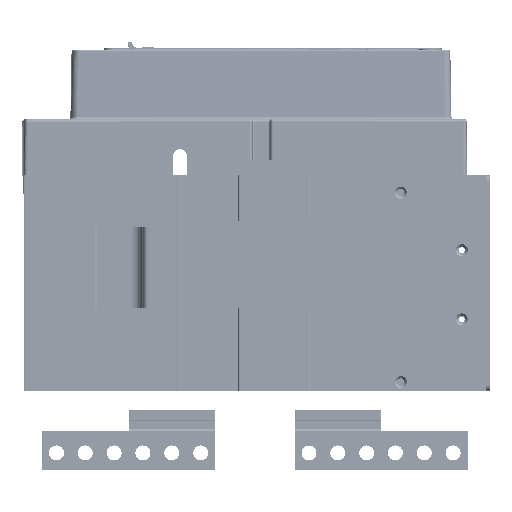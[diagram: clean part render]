
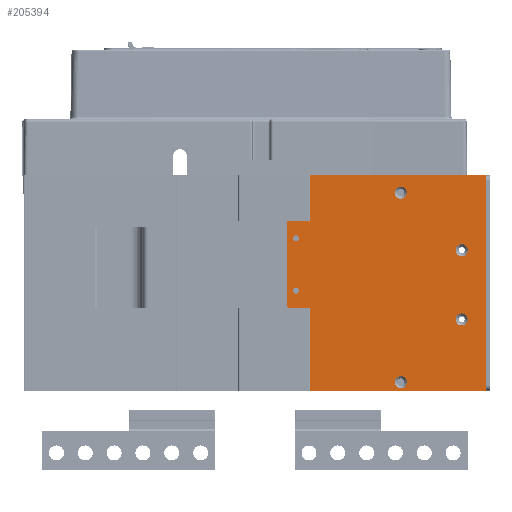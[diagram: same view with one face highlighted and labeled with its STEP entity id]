
A CAD part, left-side view. The second image highlights one B-rep face of the part: STEP entity #205394.
In plain terms, the highlighted planar face has unit normal (-1, 0, 0) as drawn and (1, 0, 0) by its records, which use the part's own axes.
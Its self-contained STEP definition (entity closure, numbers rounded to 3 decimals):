
#204432=CARTESIAN_POINT('',(3.2,158.7,91.4));
#204433=DIRECTION('',(-1.,0.,0.));
#204434=DIRECTION('',(0.,0.,1.));
#204435=AXIS2_PLACEMENT_3D('',#204432,#204433,#204434);
#204437=DIRECTION('',(0.,1.,0.));
#204438=VECTOR('',#204437,13.7);
#204439=CARTESIAN_POINT('',(3.2,160.7,21.6));
#204440=LINE('',#204439,#204438);
#204441=CARTESIAN_POINT('',(3.2,174.4,19.6));
#204442=DIRECTION('',(-1.,0.,0.));
#204443=DIRECTION('',(0.,0.,1.));
#204444=AXIS2_PLACEMENT_3D('',#204441,#204442,#204443);
#204446=DIRECTION('',(0.,0.,-1.));
#204447=VECTOR('',#204446,71.4);
#204448=CARTESIAN_POINT('',(3.2,176.4,19.6));
#204449=LINE('',#204448,#204447);
#204450=CARTESIAN_POINT('',(3.2,174.4,-51.8));
#204451=DIRECTION('',(-1.,0.,0.));
#204452=DIRECTION('',(0.,1.,0.));
#204453=AXIS2_PLACEMENT_3D('',#204450,#204451,#204452);
#204455=DIRECTION('',(0.,0.,-1.));
#204456=VECTOR('',#204455,37.6);
#204457=CARTESIAN_POINT('',(3.2,160.7,-53.8));
#204458=LINE('',#204457,#204456);
#204459=CARTESIAN_POINT('',(3.2,158.7,-91.4));
#204460=DIRECTION('',(-1.,0.,0.));
#204461=DIRECTION('',(0.,1.,0.));
#204462=AXIS2_PLACEMENT_3D('',#204459,#204460,#204461);
#204464=DIRECTION('',(0.,-1.,0.));
#204465=VECTOR('',#204464,155.);
#204466=CARTESIAN_POINT('',(3.2,158.7,-93.4));
#204467=LINE('',#204466,#204465);
#204468=CARTESIAN_POINT('',(3.2,168.2,6.6));
#204469=DIRECTION('',(1.,0.,0.));
#204470=DIRECTION('',(0.,0.,-1.));
#204471=AXIS2_PLACEMENT_3D('',#204468,#204469,#204470);
#204473=CARTESIAN_POINT('',(3.2,168.2,6.6));
#204474=DIRECTION('',(1.,0.,0.));
#204475=DIRECTION('',(0.,0.,1.));
#204476=AXIS2_PLACEMENT_3D('',#204473,#204474,#204475);
#204478=CARTESIAN_POINT('',(3.2,168.2,-38.8));
#204479=DIRECTION('',(1.,0.,0.));
#204480=DIRECTION('',(0.,0.,-1.));
#204481=AXIS2_PLACEMENT_3D('',#204478,#204479,#204480);
#204483=CARTESIAN_POINT('',(3.2,168.2,-38.8));
#204484=DIRECTION('',(1.,0.,0.));
#204485=DIRECTION('',(0.,0.,1.));
#204486=AXIS2_PLACEMENT_3D('',#204483,#204484,#204485);
#204488=CARTESIAN_POINT('',(3.2,77.4,-78.4));
#204489=DIRECTION('',(1.,0.,0.));
#204490=DIRECTION('',(0.,0.,-1.));
#204491=AXIS2_PLACEMENT_3D('',#204488,#204489,#204490);
#204493=CARTESIAN_POINT('',(3.2,77.4,-78.4));
#204494=DIRECTION('',(1.,0.,0.));
#204495=DIRECTION('',(0.,0.,1.));
#204496=AXIS2_PLACEMENT_3D('',#204493,#204494,#204495);
#204498=CARTESIAN_POINT('',(3.2,77.4,86.));
#204499=DIRECTION('',(1.,0.,0.));
#204500=DIRECTION('',(0.,0.,1.));
#204501=AXIS2_PLACEMENT_3D('',#204498,#204499,#204500);
#204503=CARTESIAN_POINT('',(3.2,77.4,86.));
#204504=DIRECTION('',(1.,0.,0.));
#204505=DIRECTION('',(0.,0.,-1.));
#204506=AXIS2_PLACEMENT_3D('',#204503,#204504,#204505);
#204508=CARTESIAN_POINT('',(3.2,24.5,31.6));
#204509=DIRECTION('',(1.,0.,0.));
#204510=DIRECTION('',(0.,0.,1.));
#204511=AXIS2_PLACEMENT_3D('',#204508,#204509,#204510);
#204513=CARTESIAN_POINT('',(3.2,24.5,31.6));
#204514=DIRECTION('',(1.,0.,0.));
#204515=DIRECTION('',(0.,0.,-1.));
#204516=AXIS2_PLACEMENT_3D('',#204513,#204514,#204515);
#204518=CARTESIAN_POINT('',(3.2,24.5,-28.4));
#204519=DIRECTION('',(1.,0.,0.));
#204520=DIRECTION('',(0.,0.,1.));
#204521=AXIS2_PLACEMENT_3D('',#204518,#204519,#204520);
#204523=CARTESIAN_POINT('',(3.2,24.5,-28.4));
#204524=DIRECTION('',(1.,0.,0.));
#204525=DIRECTION('',(0.,0.,-1.));
#204526=AXIS2_PLACEMENT_3D('',#204523,#204524,#204525);
#204528=DIRECTION('',(0.,0.,-1.));
#204529=VECTOR('',#204528,186.8);
#204530=CARTESIAN_POINT('',(3.2,3.7,93.4));
#204531=LINE('',#204530,#204529);
#204729=DIRECTION('',(0.,-1.,0.));
#204730=VECTOR('',#204729,155.);
#204731=CARTESIAN_POINT('',(3.2,158.7,93.4));
#204732=LINE('',#204731,#204730);
#204758=DIRECTION('',(0.,0.,1.));
#204759=VECTOR('',#204758,69.8);
#204760=CARTESIAN_POINT('',(3.2,160.7,21.6));
#204761=LINE('',#204760,#204759);
#204790=DIRECTION('',(0.,1.,0.));
#204791=VECTOR('',#204790,13.7);
#204792=CARTESIAN_POINT('',(3.2,160.7,-53.8));
#204793=LINE('',#204792,#204791);
#205012=CARTESIAN_POINT('',(3.2,3.7,-93.4));
#205013=VERTEX_POINT('',#205012);
#205014=CARTESIAN_POINT('',(3.2,158.7,-93.4));
#205015=VERTEX_POINT('',#205014);
#205064=CARTESIAN_POINT('',(3.2,168.2,9.2));
#205065=VERTEX_POINT('',#205064);
#205066=CARTESIAN_POINT('',(3.2,168.2,4.));
#205067=VERTEX_POINT('',#205066);
#205068=CARTESIAN_POINT('',(3.2,3.7,93.4));
#205069=VERTEX_POINT('',#205068);
#205070=CARTESIAN_POINT('',(3.2,158.7,93.4));
#205071=VERTEX_POINT('',#205070);
#205072=CARTESIAN_POINT('',(3.2,160.7,91.4));
#205073=VERTEX_POINT('',#205072);
#205074=CARTESIAN_POINT('',(3.2,160.7,21.6));
#205075=VERTEX_POINT('',#205074);
#205076=CARTESIAN_POINT('',(3.2,174.4,21.6));
#205077=VERTEX_POINT('',#205076);
#205078=CARTESIAN_POINT('',(3.2,176.4,19.6));
#205079=VERTEX_POINT('',#205078);
#205080=CARTESIAN_POINT('',(3.2,176.4,-51.8));
#205081=VERTEX_POINT('',#205080);
#205082=CARTESIAN_POINT('',(3.2,174.4,-53.8));
#205083=VERTEX_POINT('',#205082);
#205084=CARTESIAN_POINT('',(3.2,160.7,-53.8));
#205085=VERTEX_POINT('',#205084);
#205086=CARTESIAN_POINT('',(3.2,160.7,-91.4));
#205087=VERTEX_POINT('',#205086);
#205088=CARTESIAN_POINT('',(3.2,168.2,-41.4));
#205089=CARTESIAN_POINT('',(3.2,168.2,-36.2));
#205090=VERTEX_POINT('',#205088);
#205091=VERTEX_POINT('',#205089);
#205092=CARTESIAN_POINT('',(3.2,77.4,-83.65));
#205093=CARTESIAN_POINT('',(3.2,77.4,-73.15));
#205094=VERTEX_POINT('',#205092);
#205095=VERTEX_POINT('',#205093);
#205096=CARTESIAN_POINT('',(3.2,77.4,91.25));
#205097=CARTESIAN_POINT('',(3.2,77.4,80.75));
#205098=VERTEX_POINT('',#205096);
#205099=VERTEX_POINT('',#205097);
#205100=CARTESIAN_POINT('',(3.2,24.5,36.85));
#205101=CARTESIAN_POINT('',(3.2,24.5,26.35));
#205102=VERTEX_POINT('',#205100);
#205103=VERTEX_POINT('',#205101);
#205104=CARTESIAN_POINT('',(3.2,24.5,-23.15));
#205105=CARTESIAN_POINT('',(3.2,24.5,-33.65));
#205106=VERTEX_POINT('',#205104);
#205107=VERTEX_POINT('',#205105);
#205329=CARTESIAN_POINT('',(3.2,3.2,-93.4));
#205330=DIRECTION('',(1.,0.,0.));
#205331=DIRECTION('',(0.,1.,0.));
#205332=AXIS2_PLACEMENT_3D('',#205329,#205330,#205331);
#205333=PLANE('',#205332);
#205335=ORIENTED_EDGE('',*,*,#205334,.F.);
#205337=ORIENTED_EDGE('',*,*,#205336,.F.);
#205339=ORIENTED_EDGE('',*,*,#205338,.T.);
#205341=ORIENTED_EDGE('',*,*,#205340,.F.);
#205343=ORIENTED_EDGE('',*,*,#205342,.T.);
#205345=ORIENTED_EDGE('',*,*,#205344,.T.);
#205347=ORIENTED_EDGE('',*,*,#205346,.T.);
#205349=ORIENTED_EDGE('',*,*,#205348,.T.);
#205351=ORIENTED_EDGE('',*,*,#205350,.F.);
#205353=ORIENTED_EDGE('',*,*,#205352,.T.);
#205354=ORIENTED_EDGE('',*,*,#205320,.T.);
#205355=ORIENTED_EDGE('',*,*,#205225,.T.);
#205356=EDGE_LOOP('',(#205335,#205337,#205339,#205341,#205343,#205345,#205347,
#205349,#205351,#205353,#205354,#205355));
#205357=FACE_OUTER_BOUND('',#205356,.F.);
#205359=ORIENTED_EDGE('',*,*,#205358,.T.);
#205361=ORIENTED_EDGE('',*,*,#205360,.T.);
#205362=EDGE_LOOP('',(#205359,#205361));
#205363=FACE_BOUND('',#205362,.F.);
#205365=ORIENTED_EDGE('',*,*,#205364,.T.);
#205367=ORIENTED_EDGE('',*,*,#205366,.T.);
#205368=EDGE_LOOP('',(#205365,#205367));
#205369=FACE_BOUND('',#205368,.F.);
#205371=ORIENTED_EDGE('',*,*,#205370,.T.);
#205373=ORIENTED_EDGE('',*,*,#205372,.T.);
#205374=EDGE_LOOP('',(#205371,#205373));
#205375=FACE_BOUND('',#205374,.F.);
#205377=ORIENTED_EDGE('',*,*,#205376,.T.);
#205379=ORIENTED_EDGE('',*,*,#205378,.T.);
#205380=EDGE_LOOP('',(#205377,#205379));
#205381=FACE_BOUND('',#205380,.F.);
#205383=ORIENTED_EDGE('',*,*,#205382,.T.);
#205385=ORIENTED_EDGE('',*,*,#205384,.T.);
#205386=EDGE_LOOP('',(#205383,#205385));
#205387=FACE_BOUND('',#205386,.F.);
#205389=ORIENTED_EDGE('',*,*,#205388,.T.);
#205391=ORIENTED_EDGE('',*,*,#205390,.T.);
#205392=EDGE_LOOP('',(#205389,#205391));
#205393=FACE_BOUND('',#205392,.F.);
#205394=ADVANCED_FACE('',(#205357,#205363,#205369,#205375,#205381,#205387,
#205393),#205333,.T.);
#204436=CIRCLE('',#204435,2.);
#204445=CIRCLE('',#204444,2.);
#204454=CIRCLE('',#204453,2.);
#204463=CIRCLE('',#204462,2.);
#204472=CIRCLE('',#204471,2.6);
#204477=CIRCLE('',#204476,2.6);
#204482=CIRCLE('',#204481,2.6);
#204487=CIRCLE('',#204486,2.6);
#204492=CIRCLE('',#204491,5.25);
#204497=CIRCLE('',#204496,5.25);
#204502=CIRCLE('',#204501,5.25);
#204507=CIRCLE('',#204506,5.25);
#204512=CIRCLE('',#204511,5.25);
#204517=CIRCLE('',#204516,5.25);
#204522=CIRCLE('',#204521,5.25);
#204527=CIRCLE('',#204526,5.25);
#205225=EDGE_CURVE('',#205015,#205013,#204467,.T.);
#205320=EDGE_CURVE('',#205087,#205015,#204463,.T.);
#205334=EDGE_CURVE('',#205069,#205013,#204531,.T.);
#205336=EDGE_CURVE('',#205071,#205069,#204732,.T.);
#205338=EDGE_CURVE('',#205071,#205073,#204436,.T.);
#205340=EDGE_CURVE('',#205075,#205073,#204761,.T.);
#205342=EDGE_CURVE('',#205075,#205077,#204440,.T.);
#205344=EDGE_CURVE('',#205077,#205079,#204445,.T.);
#205346=EDGE_CURVE('',#205079,#205081,#204449,.T.);
#205348=EDGE_CURVE('',#205081,#205083,#204454,.T.);
#205350=EDGE_CURVE('',#205085,#205083,#204793,.T.);
#205352=EDGE_CURVE('',#205085,#205087,#204458,.T.);
#205358=EDGE_CURVE('',#205067,#205065,#204472,.T.);
#205360=EDGE_CURVE('',#205065,#205067,#204477,.T.);
#205364=EDGE_CURVE('',#205090,#205091,#204482,.T.);
#205366=EDGE_CURVE('',#205091,#205090,#204487,.T.);
#205370=EDGE_CURVE('',#205094,#205095,#204492,.T.);
#205372=EDGE_CURVE('',#205095,#205094,#204497,.T.);
#205376=EDGE_CURVE('',#205098,#205099,#204502,.T.);
#205378=EDGE_CURVE('',#205099,#205098,#204507,.T.);
#205382=EDGE_CURVE('',#205102,#205103,#204512,.T.);
#205384=EDGE_CURVE('',#205103,#205102,#204517,.T.);
#205388=EDGE_CURVE('',#205106,#205107,#204522,.T.);
#205390=EDGE_CURVE('',#205107,#205106,#204527,.T.);
